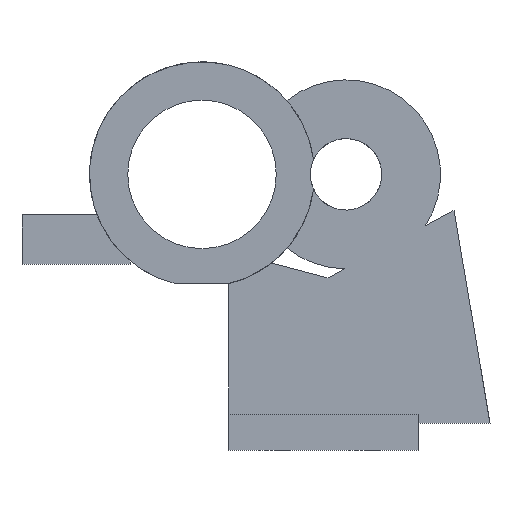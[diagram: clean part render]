
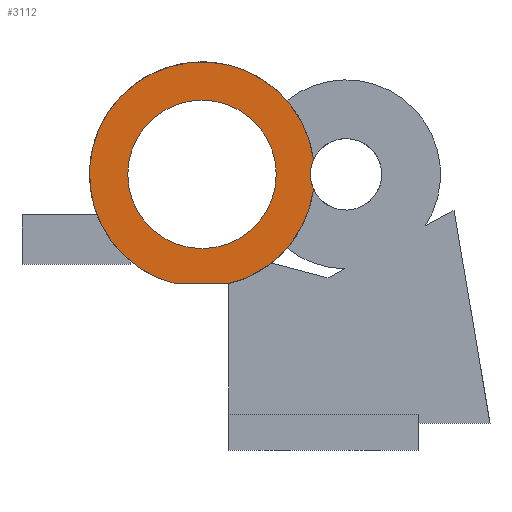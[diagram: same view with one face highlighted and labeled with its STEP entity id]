
A CAD part, front view. The second image highlights one B-rep face of the part: STEP entity #3112.
In plain terms, the highlighted planar face has unit normal (0, -1, 0).
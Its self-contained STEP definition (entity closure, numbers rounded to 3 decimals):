
#212 = CYLINDRICAL_SURFACE('',#213,12.5);
#213 = AXIS2_PLACEMENT_3D('',#214,#215,#216);
#214 = CARTESIAN_POINT('',(48.,-0.3,-195.));
#215 = DIRECTION('',(0.,-1.,-0.));
#216 = DIRECTION('',(1.,0.,0.));
#1083 = CYLINDRICAL_SURFACE('',#1084,12.5);
#1084 = AXIS2_PLACEMENT_3D('',#1085,#1086,#1087);
#1085 = CARTESIAN_POINT('',(48.,-0.3,-195.));
#1086 = DIRECTION('',(0.,-1.,-0.));
#1087 = DIRECTION('',(1.,0.,0.));
#1112 = CYLINDRICAL_SURFACE('',#1113,3.97);
#1113 = AXIS2_PLACEMENT_3D('',#1114,#1115,#1116);
#1114 = CARTESIAN_POINT('',(64.,-5.8,-195.));
#1115 = DIRECTION('',(0.,-1.,-0.));
#1116 = DIRECTION('',(1.,0.,0.));
#1520 = PLANE('',#1521);
#1521 = AXIS2_PLACEMENT_3D('',#1522,#1523,#1524);
#1522 = CARTESIAN_POINT('',(32.,-45.8,-207.137));
#1523 = DIRECTION('',(0.,0.,1.));
#1524 = DIRECTION('',(1.,0.,0.));
#1646 = CYLINDRICAL_SURFACE('',#1647,8.25);
#1647 = AXIS2_PLACEMENT_3D('',#1648,#1649,#1650);
#1648 = CARTESIAN_POINT('',(48.,-1.3,-195.));
#1649 = DIRECTION('',(0.,-1.,-0.));
#1650 = DIRECTION('',(1.,0.,0.));
#1899 = EDGE_CURVE('',#1900,#1902,#1904,.T.);
#1900 = VERTEX_POINT('',#1901);
#1901 = CARTESIAN_POINT('',(60.39,-0.3,-196.653));
#1902 = VERTEX_POINT('',#1903);
#1903 = CARTESIAN_POINT('',(50.992,-0.3,-207.137));
#1904 = SURFACE_CURVE('',#1905,(#1910,#1917),.PCURVE_S1.);
#1905 = CIRCLE('',#1906,12.5);
#1906 = AXIS2_PLACEMENT_3D('',#1907,#1908,#1909);
#1907 = CARTESIAN_POINT('',(48.,-0.3,-195.));
#1908 = DIRECTION('',(-0.,1.,0.));
#1909 = DIRECTION('',(1.,0.,0.));
#1910 = PCURVE('',#212,#1911);
#1911 = DEFINITIONAL_REPRESENTATION('',(#1912),#1916);
#1912 = LINE('',#1913,#1914);
#1913 = CARTESIAN_POINT('',(-0.,0.));
#1914 = VECTOR('',#1915,1.);
#1915 = DIRECTION('',(-1.,0.));
#1916 = ( GEOMETRIC_REPRESENTATION_CONTEXT(2) 
PARAMETRIC_REPRESENTATION_CONTEXT() REPRESENTATION_CONTEXT('2D SPACE',''
  ) );
#1917 = PCURVE('',#1918,#1923);
#1918 = PLANE('',#1919);
#1919 = AXIS2_PLACEMENT_3D('',#1920,#1921,#1922);
#1920 = CARTESIAN_POINT('',(48.,-0.3,-195.));
#1921 = DIRECTION('',(0.,1.,0.));
#1922 = DIRECTION('',(0.,-0.,1.));
#1923 = DEFINITIONAL_REPRESENTATION('',(#1924),#1928);
#1924 = CIRCLE('',#1925,12.5);
#1925 = AXIS2_PLACEMENT_2D('',#1926,#1927);
#1926 = CARTESIAN_POINT('',(0.,0.));
#1927 = DIRECTION('',(0.,1.));
#1928 = ( GEOMETRIC_REPRESENTATION_CONTEXT(2) 
PARAMETRIC_REPRESENTATION_CONTEXT() REPRESENTATION_CONTEXT('2D SPACE',''
  ) );
#2099 = VERTEX_POINT('',#2100);
#2100 = CARTESIAN_POINT('',(60.39,-0.3,-193.347));
#2119 = EDGE_CURVE('',#2099,#1900,#2120,.T.);
#2120 = SURFACE_CURVE('',#2121,(#2126,#2133),.PCURVE_S1.);
#2121 = CIRCLE('',#2122,3.97);
#2122 = AXIS2_PLACEMENT_3D('',#2123,#2124,#2125);
#2123 = CARTESIAN_POINT('',(64.,-0.3,-195.));
#2124 = DIRECTION('',(0.,-1.,-0.));
#2125 = DIRECTION('',(1.,0.,0.));
#2126 = PCURVE('',#1112,#2127);
#2127 = DEFINITIONAL_REPRESENTATION('',(#2128),#2132);
#2128 = LINE('',#2129,#2130);
#2129 = CARTESIAN_POINT('',(-6.283,-5.5));
#2130 = VECTOR('',#2131,1.);
#2131 = DIRECTION('',(1.,-0.));
#2132 = ( GEOMETRIC_REPRESENTATION_CONTEXT(2) 
PARAMETRIC_REPRESENTATION_CONTEXT() REPRESENTATION_CONTEXT('2D SPACE',''
  ) );
#2133 = PCURVE('',#1918,#2134);
#2134 = DEFINITIONAL_REPRESENTATION('',(#2135),#2143);
#2135 = ( BOUNDED_CURVE() B_SPLINE_CURVE(2,(#2136,#2137,#2138,#2139,
#2140,#2141,#2142),.UNSPECIFIED.,.T.,.F.) B_SPLINE_CURVE_WITH_KNOTS((1,2
    ,2,2,2,1),(-2.094,0.,2.094,4.189,
6.283,8.378),.UNSPECIFIED.) CURVE() 
GEOMETRIC_REPRESENTATION_ITEM() RATIONAL_B_SPLINE_CURVE((1.,0.5,1.,0.5,
1.,0.5,1.)) REPRESENTATION_ITEM('') );
#2136 = CARTESIAN_POINT('',(0.,19.97));
#2137 = CARTESIAN_POINT('',(6.876,19.97));
#2138 = CARTESIAN_POINT('',(3.438,14.015));
#2139 = CARTESIAN_POINT('',(0.,8.06));
#2140 = CARTESIAN_POINT('',(-3.438,14.015));
#2141 = CARTESIAN_POINT('',(-6.876,19.97));
#2142 = CARTESIAN_POINT('',(0.,19.97));
#2143 = ( GEOMETRIC_REPRESENTATION_CONTEXT(2) 
PARAMETRIC_REPRESENTATION_CONTEXT() REPRESENTATION_CONTEXT('2D SPACE',''
  ) );
#2149 = EDGE_CURVE('',#2150,#2099,#2152,.T.);
#2150 = VERTEX_POINT('',#2151);
#2151 = CARTESIAN_POINT('',(45.008,-0.3,-207.137));
#2152 = SURFACE_CURVE('',#2153,(#2158,#2165),.PCURVE_S1.);
#2153 = CIRCLE('',#2154,12.5);
#2154 = AXIS2_PLACEMENT_3D('',#2155,#2156,#2157);
#2155 = CARTESIAN_POINT('',(48.,-0.3,-195.));
#2156 = DIRECTION('',(-0.,1.,0.));
#2157 = DIRECTION('',(1.,0.,0.));
#2158 = PCURVE('',#1083,#2159);
#2159 = DEFINITIONAL_REPRESENTATION('',(#2160),#2164);
#2160 = LINE('',#2161,#2162);
#2161 = CARTESIAN_POINT('',(-0.,0.));
#2162 = VECTOR('',#2163,1.);
#2163 = DIRECTION('',(-1.,0.));
#2164 = ( GEOMETRIC_REPRESENTATION_CONTEXT(2) 
PARAMETRIC_REPRESENTATION_CONTEXT() REPRESENTATION_CONTEXT('2D SPACE',''
  ) );
#2165 = PCURVE('',#1918,#2166);
#2166 = DEFINITIONAL_REPRESENTATION('',(#2167),#2171);
#2167 = CIRCLE('',#2168,12.5);
#2168 = AXIS2_PLACEMENT_2D('',#2169,#2170);
#2169 = CARTESIAN_POINT('',(0.,0.));
#2170 = DIRECTION('',(0.,1.));
#2171 = ( GEOMETRIC_REPRESENTATION_CONTEXT(2) 
PARAMETRIC_REPRESENTATION_CONTEXT() REPRESENTATION_CONTEXT('2D SPACE',''
  ) );
#2866 = EDGE_CURVE('',#2150,#1902,#2867,.T.);
#2867 = SURFACE_CURVE('',#2868,(#2872,#2878),.PCURVE_S1.);
#2868 = LINE('',#2869,#2870);
#2869 = CARTESIAN_POINT('',(40.,-0.3,-207.137));
#2870 = VECTOR('',#2871,1.);
#2871 = DIRECTION('',(1.,0.,0.));
#2872 = PCURVE('',#1520,#2873);
#2873 = DEFINITIONAL_REPRESENTATION('',(#2874),#2877);
#2874 = B_SPLINE_CURVE_WITH_KNOTS('',1,(#2875,#2876),.UNSPECIFIED.,.F.,
  .F.,(2,2),(-4.5,11.),.PIECEWISE_BEZIER_KNOTS.);
#2875 = CARTESIAN_POINT('',(3.5,45.5));
#2876 = CARTESIAN_POINT('',(19.,45.5));
#2877 = ( GEOMETRIC_REPRESENTATION_CONTEXT(2) 
PARAMETRIC_REPRESENTATION_CONTEXT() REPRESENTATION_CONTEXT('2D SPACE',''
  ) );
#2878 = PCURVE('',#1918,#2879);
#2879 = DEFINITIONAL_REPRESENTATION('',(#2880),#2883);
#2880 = B_SPLINE_CURVE_WITH_KNOTS('',1,(#2881,#2882),.UNSPECIFIED.,.F.,
  .F.,(2,2),(-4.5,11.),.PIECEWISE_BEZIER_KNOTS.);
#2881 = CARTESIAN_POINT('',(-12.137,-12.5));
#2882 = CARTESIAN_POINT('',(-12.137,3.));
#2883 = ( GEOMETRIC_REPRESENTATION_CONTEXT(2) 
PARAMETRIC_REPRESENTATION_CONTEXT() REPRESENTATION_CONTEXT('2D SPACE',''
  ) );
#3062 = EDGE_CURVE('',#3063,#3063,#3065,.T.);
#3063 = VERTEX_POINT('',#3064);
#3064 = CARTESIAN_POINT('',(56.25,-0.3,-195.));
#3065 = SURFACE_CURVE('',#3066,(#3071,#3078),.PCURVE_S1.);
#3066 = CIRCLE('',#3067,8.25);
#3067 = AXIS2_PLACEMENT_3D('',#3068,#3069,#3070);
#3068 = CARTESIAN_POINT('',(48.,-0.3,-195.));
#3069 = DIRECTION('',(0.,-1.,-0.));
#3070 = DIRECTION('',(1.,0.,0.));
#3071 = PCURVE('',#1646,#3072);
#3072 = DEFINITIONAL_REPRESENTATION('',(#3073),#3077);
#3073 = LINE('',#3074,#3075);
#3074 = CARTESIAN_POINT('',(-6.283,-1.));
#3075 = VECTOR('',#3076,1.);
#3076 = DIRECTION('',(1.,-0.));
#3077 = ( GEOMETRIC_REPRESENTATION_CONTEXT(2) 
PARAMETRIC_REPRESENTATION_CONTEXT() REPRESENTATION_CONTEXT('2D SPACE',''
  ) );
#3078 = PCURVE('',#1918,#3079);
#3079 = DEFINITIONAL_REPRESENTATION('',(#3080),#3088);
#3080 = ( BOUNDED_CURVE() B_SPLINE_CURVE(2,(#3081,#3082,#3083,#3084,
#3085,#3086,#3087),.UNSPECIFIED.,.T.,.F.) B_SPLINE_CURVE_WITH_KNOTS((1,2
    ,2,2,2,1),(-2.094,0.,2.094,4.189,
6.283,8.378),.UNSPECIFIED.) CURVE() 
GEOMETRIC_REPRESENTATION_ITEM() RATIONAL_B_SPLINE_CURVE((1.,0.5,1.,0.5,
1.,0.5,1.)) REPRESENTATION_ITEM('') );
#3081 = CARTESIAN_POINT('',(0.,8.25));
#3082 = CARTESIAN_POINT('',(14.289,8.25));
#3083 = CARTESIAN_POINT('',(7.145,-4.125));
#3084 = CARTESIAN_POINT('',(0.,-16.5));
#3085 = CARTESIAN_POINT('',(-7.145,-4.125));
#3086 = CARTESIAN_POINT('',(-14.289,8.25));
#3087 = CARTESIAN_POINT('',(0.,8.25));
#3088 = ( GEOMETRIC_REPRESENTATION_CONTEXT(2) 
PARAMETRIC_REPRESENTATION_CONTEXT() REPRESENTATION_CONTEXT('2D SPACE',''
  ) );
#3112 = ADVANCED_FACE('',(#3113,#3119),#1918,.F.);
#3113 = FACE_BOUND('',#3114,.F.);
#3114 = EDGE_LOOP('',(#3115,#3116,#3117,#3118));
#3115 = ORIENTED_EDGE('',*,*,#2149,.T.);
#3116 = ORIENTED_EDGE('',*,*,#2119,.T.);
#3117 = ORIENTED_EDGE('',*,*,#1899,.T.);
#3118 = ORIENTED_EDGE('',*,*,#2866,.F.);
#3119 = FACE_BOUND('',#3120,.F.);
#3120 = EDGE_LOOP('',(#3121));
#3121 = ORIENTED_EDGE('',*,*,#3062,.T.);
